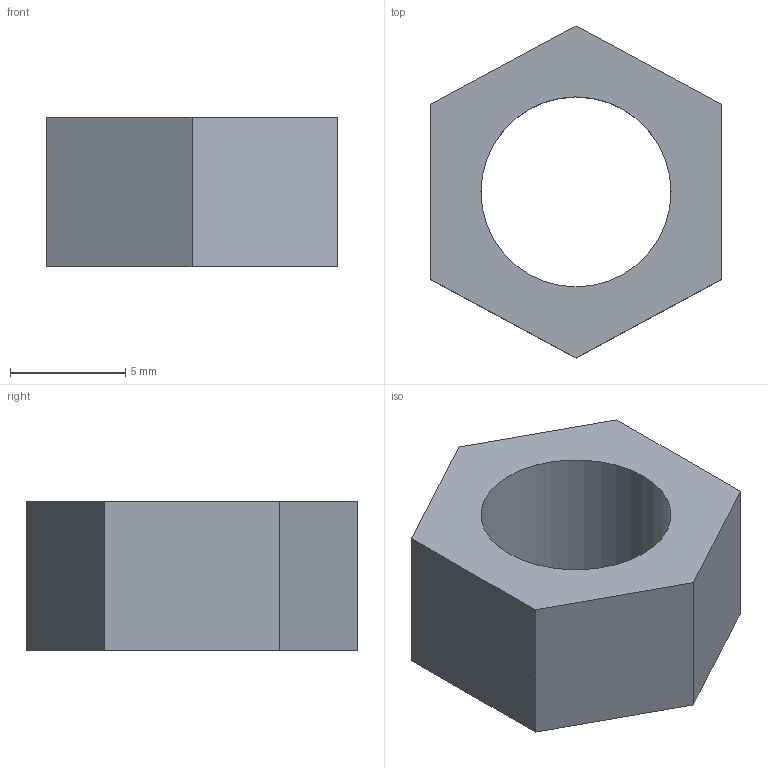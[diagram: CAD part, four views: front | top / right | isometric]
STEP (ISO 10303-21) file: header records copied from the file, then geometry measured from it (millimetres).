
FILE_DESCRIPTION(/* description */ (''),/* implementation_level */ '2;1');
FILE_NAME(/* name */ 'D:\3D печать\Мои проекты\Archy MK 2\STEP\MK3\гайка вставка.stp',/* time_stamp */ '2019-08-16T23:01:24+06:00',/* author */ ('Пользователь'),/* organization */ (''),/* preprocessor_version */ 'ST-DEVELOPER v16.5',/* originating_system */ 'Autodesk Inventor 2017',/* authorisation */ '');
FILE_SCHEMA (('AUTOMOTIVE_DESIGN { 1 0 10303 214 3 1 1 }'));
Length unit declared in the file: millimetre
Products named in the file (1): гайка \X2\04320441044204300432043A
0430\X0\
Bounding box: 12.6 x 14.4 x 6.5 mm (x, y, z)
Volume: 553.4 mm3; surface area: 623.7 mm2
Topology: 1 solids, 1 shells, 9 faces, 21 edges, 14 vertices
Faces by surface type: plane 8, cylinder 1
Full cylindrical faces by diameter (mm): 8.25 x1
Entity records: 280 total; most frequent: CARTESIAN_POINT 44, DIRECTION 42, ORIENTED_EDGE 40, EDGE_CURVE 20, LINE 18, VECTOR 18, VERTEX_POINT 14, EDGE_LOOP 12
